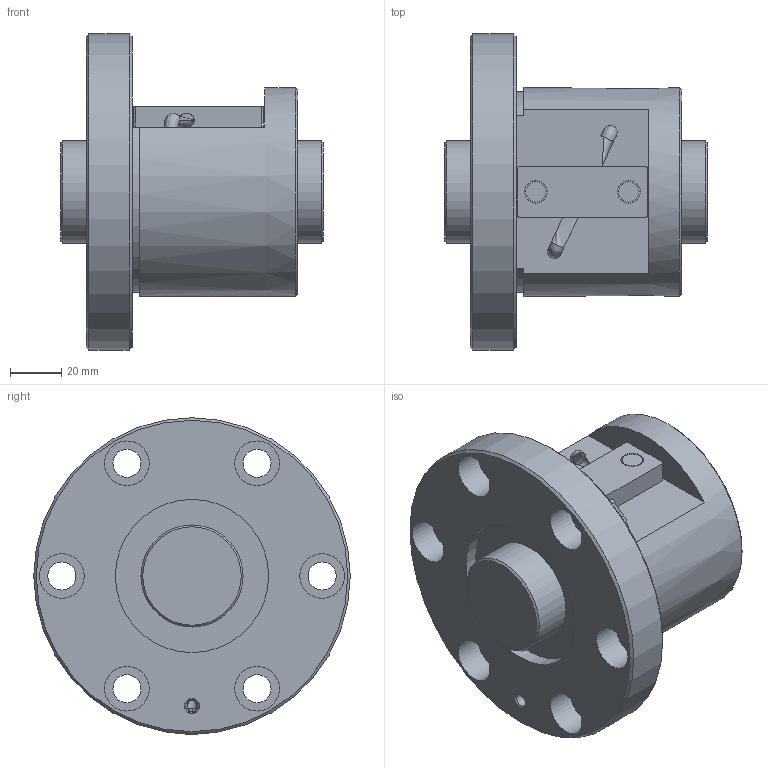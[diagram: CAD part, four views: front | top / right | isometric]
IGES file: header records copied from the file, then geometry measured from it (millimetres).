
Start section: Data from Parasolid IGES Translator 26.0.171, Copyright(c) 2006 Siemens PLM Software. All Rights Reserved.
Global section: file name: BNF4010V-3.5RRG1+103LC0_000_rev.igs; native system: By Siemens PLM Incorporated; preprocessor: XPlus GENERIC/IGES 26.0.171; author: Noname; organization: Noname; date: 20240806.084050; units: millimetre
Bounding box: 103 x 124 x 124 mm (x, y, z)
Surface area: 79277.4 mm2 (no closed solid volume)
Topology: 0 solids, 0 shells, 71 faces, 310 edges, 272 vertices
Faces by surface type: revolution 44, extrusion 27
